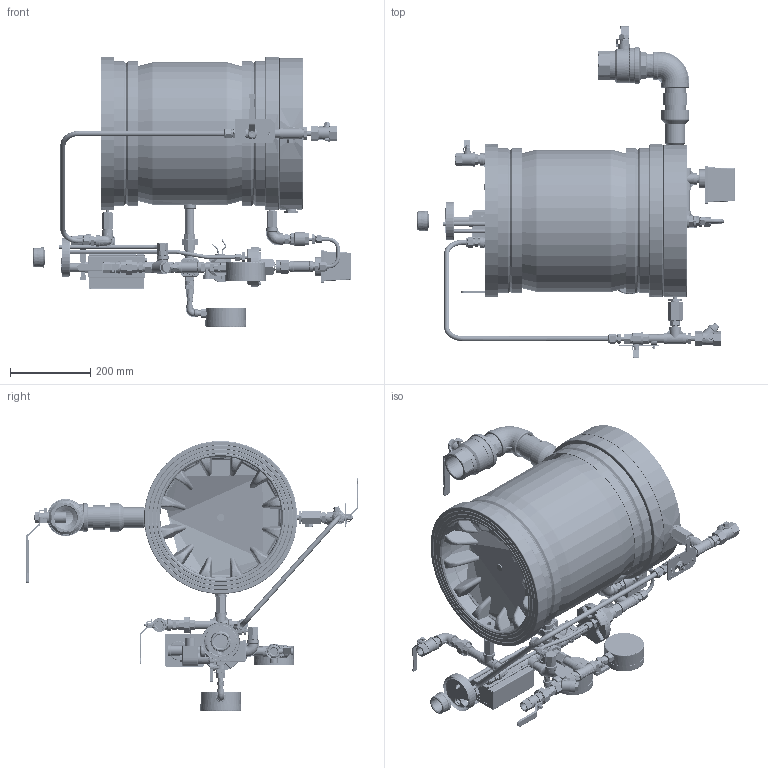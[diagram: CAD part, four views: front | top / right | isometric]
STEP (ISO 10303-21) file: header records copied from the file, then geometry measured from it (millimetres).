
FILE_DESCRIPTION(/* description */ (''),/* implementation_level */ '2;1');
FILE_NAME(/* name */ '799DX-04K01 FM Trim 12in.stp',/* time_stamp */ '2024-02-11T15:12:25+02:00',/* author */ ('alex'),/* organization */ (''),/* preprocessor_version */ 'ST-DEVELOPER v20',/* originating_system */ 'Autodesk Inventor 2024',/* authorisation */ '');
FILE_SCHEMA (('AUTOMOTIVE_DESIGN { 1 0 10303 214 3 1 1 }'));
Length unit declared in the file: millimetre
Products named in the file (1): 799DX-04K01 FM Trim 12in STEP
Bounding box: 789.4 x 825.66 x 671.96 mm (x, y, z)
Volume: 17008342.9 mm3; surface area: 3710090.1 mm2
Topology: 10 solids, 63 shells, 5622 faces, 13901 edges, 8673 vertices
Faces by surface type: plane 2747, cylinder 1203, cone 1160, bspline 332, torus 170, sphere 10
Full cylindrical faces by diameter (mm): 1.5 x4, 2 x7, 3 x14, 3.7 x2, 4 x20, 4.134 x2, 4.2 x4, 4.7 x1, 4.8 x1, 4.978 x6, 5 x32, 5.2 x10, 5.3 x1, 5.5 x4, 6 x6, 6.2 x1, 6.33 x4, 6.35 x2, 6.4 x4, 6.5 x7, 7 x13, 7.036 x8, 7.3 x1, 7.515 x4, 7.6 x1, 8 x5, 8.1 x1, 8.3 x1, 8.376 x1, 8.5 x17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
Entity records: 197047 total; most frequent: CARTESIAN_POINT 62613, ORIENTED_EDGE 27562, DIRECTION 26310, EDGE_CURVE 13781, AXIS2_PLACEMENT_3D 9989, VERTEX_POINT 8624, EDGE_LOOP 6333, LINE 6332
